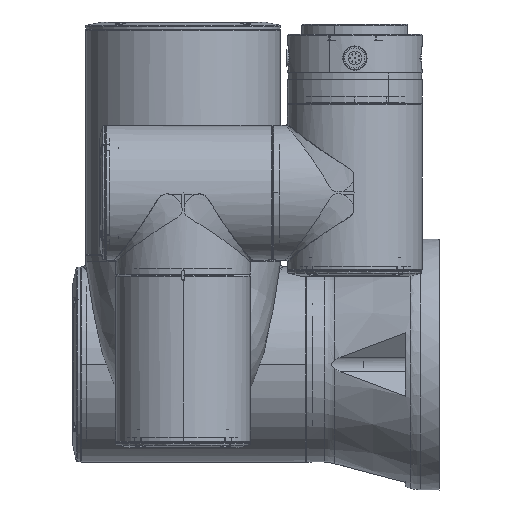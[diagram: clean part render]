
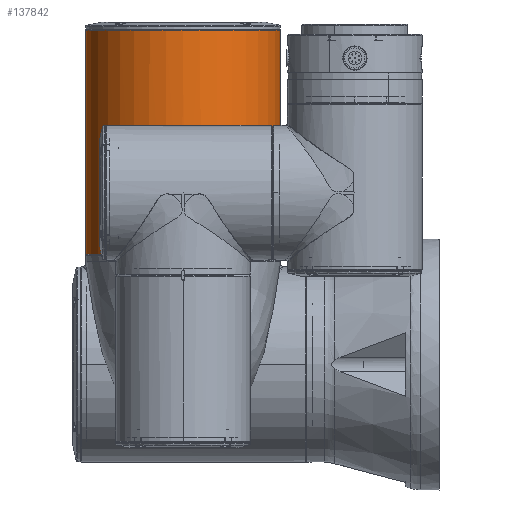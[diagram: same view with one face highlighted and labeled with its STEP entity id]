
A CAD part, left-side view. The second image highlights one B-rep face of the part: STEP entity #137842.
In plain terms, the highlighted cylindrical face has radius 58 mm (diameter 116 mm), a partial arc.
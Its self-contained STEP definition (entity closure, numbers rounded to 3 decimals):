
#1962 = CARTESIAN_POINT ( 'NONE',  ( -425., 210., 199. ) ) ;
#2050 = AXIS2_PLACEMENT_3D ( 'NONE', #81934, #139669, #106789 ) ;
#3278 = ORIENTED_EDGE ( 'NONE', *, *, #146009, .T. ) ;
#3905 = CARTESIAN_POINT ( 'NONE',  ( -482.998, 151.468, 67.935 ) ) ;
#4385 = CARTESIAN_POINT ( 'NONE',  ( -483., 151.983, 68.1 ) ) ;
#5058 = AXIS2_PLACEMENT_3D ( 'NONE', #78306, #33904, #90198 ) ;
#6766 = CARTESIAN_POINT ( 'NONE',  ( -425., 94., 138. ) ) ;
#7160 = VERTEX_POINT ( 'NONE', #67857 ) ;
#7842 = VERTEX_POINT ( 'NONE', #107302 ) ;
#8058 = ORIENTED_EDGE ( 'NONE', *, *, #28182, .T. ) ;
#8259 = DIRECTION ( 'NONE',  ( 0., 0., 1. ) ) ;
#8545 = CARTESIAN_POINT ( 'NONE',  ( -482.993, 151.125, 66.68 ) ) ;
#8759 = DIRECTION ( 'NONE',  ( 0., 1., 0. ) ) ;
#9538 = CARTESIAN_POINT ( 'NONE',  ( -482.993, 151.105, 65.503 ) ) ;
#10727 = CARTESIAN_POINT ( 'NONE',  ( -483., 152.017, 68.1 ) ) ;
#12428 = CIRCLE ( 'NONE', #5058, 58. ) ;
#14012 = CIRCLE ( 'NONE', #2050, 58. ) ;
#14785 = VECTOR ( 'NONE', #119468, 1000. ) ;
#14851 = CARTESIAN_POINT ( 'NONE',  ( -482.994, 152.864, 67.269 ) ) ;
#15349 = CARTESIAN_POINT ( 'NONE',  ( -482.995, 151.248, 67.689 ) ) ;
#16347 = CARTESIAN_POINT ( 'NONE',  ( -482.994, 151.136, 67.269 ) ) ;
#17936 = B_SPLINE_CURVE_WITH_KNOTS ( 'NONE', 3,
 ( #4385, #129576, #107138, #26367, #3905, #38326, #15349, #38840, #118602, #16347 ),
 .UNSPECIFIED., .F., .F.,
 ( 4, 2, 2, 2, 4 ),
 ( 0., 0.25, 0.5, 0.75, 1. ),
 .UNSPECIFIED. ) ;
#18292 = CARTESIAN_POINT ( 'NONE',  ( -425., 94., 65.503 ) ) ;
#19576 = CYLINDRICAL_SURFACE ( 'NONE', #59991, 58. ) ;
#20550 = VERTEX_POINT ( 'NONE', #111816 ) ;
#20922 = EDGE_CURVE ( 'NONE', #46455, #116734, #144203, .T. ) ;
#21716 = CIRCLE ( 'NONE', #65499, 58. ) ;
#22052 = VERTEX_POINT ( 'NONE', #46827 ) ;
#23743 = EDGE_CURVE ( 'NONE', #7842, #35925, #80325, .T. ) ;
#24691 = DIRECTION ( 'NONE',  ( 0., 1., 0. ) ) ;
#26101 = DIRECTION ( 'NONE',  ( 0., 0., -1. ) ) ;
#26173 = CARTESIAN_POINT ( 'NONE',  ( -425., 152., 199. ) ) ;
#26367 = CARTESIAN_POINT ( 'NONE',  ( -482.998, 151.558, 67.994 ) ) ;
#28182 = EDGE_CURVE ( 'NONE', #58007, #22052, #60481, .T. ) ;
#28269 = AXIS2_PLACEMENT_3D ( 'NONE', #30089, #121316, #109869 ) ;
#29310 = CARTESIAN_POINT ( 'NONE',  ( -482.995, 152.75, 67.691 ) ) ;
#30089 = CARTESIAN_POINT ( 'NONE',  ( -425., 152., 68.1 ) ) ;
#30316 = EDGE_CURVE ( 'NONE', #132335, #80510, #53024, .T. ) ;
#32301 = DIRECTION ( 'NONE',  ( 0., 0., -1. ) ) ;
#33904 = DIRECTION ( 'NONE',  ( 0., 0., 1. ) ) ;
#35716 = DIRECTION ( 'NONE',  ( 0., 0., -1. ) ) ;
#35925 = VERTEX_POINT ( 'NONE', #75854 ) ;
#36491 = EDGE_CURVE ( 'NONE', #7160, #58007, #145693, .T. ) ;
#36874 = CARTESIAN_POINT ( 'NONE',  ( -425., 210., 199. ) ) ;
#38326 = CARTESIAN_POINT ( 'NONE',  ( -482.996, 151.31, 67.78 ) ) ;
#38840 = CARTESIAN_POINT ( 'NONE',  ( -482.994, 151.161, 67.487 ) ) ;
#39338 = CARTESIAN_POINT ( 'NONE',  ( -482.996, 152.69, 67.78 ) ) ;
#41309 = EDGE_CURVE ( 'NONE', #116734, #122679, #101560, .T. ) ;
#42298 = VECTOR ( 'NONE', #26101, 1000. ) ;
#42347 = VECTOR ( 'NONE', #32301, 1000. ) ;
#42855 = FACE_OUTER_BOUND ( 'NONE', #116930, .T. ) ;
#44815 = EDGE_CURVE ( 'NONE', #22052, #46455, #12428, .T. ) ;
#46455 = VERTEX_POINT ( 'NONE', #63404 ) ;
#46827 = CARTESIAN_POINT ( 'NONE',  ( -425., 210., 65.503 ) ) ;
#50718 = ORIENTED_EDGE ( 'NONE', *, *, #44815, .T. ) ;
#50834 = CARTESIAN_POINT ( 'NONE',  ( -482.994, 152.862, 67.38 ) ) ;
#51691 = CARTESIAN_POINT ( 'NONE',  ( -425., 94., 199. ) ) ;
#53024 = LINE ( 'NONE', #60558, #42298 ) ;
#54174 = ORIENTED_EDGE ( 'NONE', *, *, #79098, .T. ) ;
#58007 = VERTEX_POINT ( 'NONE', #91783 ) ;
#58409 = CARTESIAN_POINT ( 'NONE',  ( -482.994, 152.864, 67.269 ) ) ;
#58915 = CARTESIAN_POINT ( 'NONE',  ( -482.993, 152.885, 66.092 ) ) ;
#59991 = AXIS2_PLACEMENT_3D ( 'NONE', #26173, #35716, #24691 ) ;
#60481 = LINE ( 'NONE', #1962, #140654 ) ;
#60558 = CARTESIAN_POINT ( 'NONE',  ( -425., 94., 199. ) ) ;
#61805 = CARTESIAN_POINT ( 'NONE',  ( -482.994, 152.839, 67.486 ) ) ;
#63404 = CARTESIAN_POINT ( 'NONE',  ( -482.993, 152.895, 65.503 ) ) ;
#64081 = ORIENTED_EDGE ( 'NONE', *, *, #144971, .T. ) ;
#65499 = AXIS2_PLACEMENT_3D ( 'NONE', #144878, #8259, #8759 ) ;
#67857 = CARTESIAN_POINT ( 'NONE',  ( -425., 210., 198.497 ) ) ;
#69558 = ORIENTED_EDGE ( 'NONE', *, *, #30316, .F. ) ;
#73679 = LINE ( 'NONE', #51691, #14785 ) ;
#75754 = EDGE_CURVE ( 'NONE', #20550, #132335, #73679, .T. ) ;
#75854 = CARTESIAN_POINT ( 'NONE',  ( -482.993, 151.105, 65.503 ) ) ;
#76141 = VERTEX_POINT ( 'NONE', #98472 ) ;
#78306 = CARTESIAN_POINT ( 'NONE',  ( -425., 152., 65.503 ) ) ;
#79098 = EDGE_CURVE ( 'NONE', #122679, #76141, #139436, .T. ) ;
#79333 = ORIENTED_EDGE ( 'NONE', *, *, #75754, .F. ) ;
#80325 =( BOUNDED_CURVE ( )  B_SPLINE_CURVE ( 3, ( #122283, #8545, #100824, #9538 ),
 .UNSPECIFIED., .F., .F. ) 
 B_SPLINE_CURVE_WITH_KNOTS ( ( 4, 4 ),
 ( 4.727, 4.728 ),
 .UNSPECIFIED. ) 
 CURVE ( )  GEOMETRIC_REPRESENTATION_ITEM ( )  RATIONAL_B_SPLINE_CURVE ( ( 1., 1., 1., 1. ) ) 
 REPRESENTATION_ITEM ( '' )  );
#80510 = VERTEX_POINT ( 'NONE', #18292 ) ;
#81934 = CARTESIAN_POINT ( 'NONE',  ( -425., 152., 198.497 ) ) ;
#87236 = ORIENTED_EDGE ( 'NONE', *, *, #36491, .T. ) ;
#90198 = DIRECTION ( 'NONE',  ( 0., 1., 0. ) ) ;
#91783 = CARTESIAN_POINT ( 'NONE',  ( -425., 210., 138. ) ) ;
#92541 = ORIENTED_EDGE ( 'NONE', *, *, #20922, .T. ) ;
#98472 = CARTESIAN_POINT ( 'NONE',  ( -483., 151.983, 68.1 ) ) ;
#100824 = CARTESIAN_POINT ( 'NONE',  ( -482.993, 151.115, 66.092 ) ) ;
#101560 = B_SPLINE_CURVE_WITH_KNOTS ( 'NONE', 3,
 ( #143431, #50834, #61805, #29310, #39338, #130549, #107625, #120565 ),
 .UNSPECIFIED., .F., .F.,
 ( 4, 2, 2, 4 ),
 ( 0., 0.25, 0.5, 1. ),
 .UNSPECIFIED. ) ;
#104684 = DIRECTION ( 'NONE',  ( 0., 0., -1. ) ) ;
#105463 = EDGE_CURVE ( 'NONE', #35925, #80510, #21716, .T. ) ;
#106789 = DIRECTION ( 'NONE',  ( 0., 1., 0. ) ) ;
#107138 = CARTESIAN_POINT ( 'NONE',  ( -483., 151.765, 68.078 ) ) ;
#107302 = CARTESIAN_POINT ( 'NONE',  ( -482.994, 151.136, 67.269 ) ) ;
#107625 = CARTESIAN_POINT ( 'NONE',  ( -483., 152.239, 68.1 ) ) ;
#109027 = ORIENTED_EDGE ( 'NONE', *, *, #41309, .T. ) ;
#109869 = DIRECTION ( 'NONE',  ( 0., -1., 0. ) ) ;
#111816 = CARTESIAN_POINT ( 'NONE',  ( -425., 94., 198.497 ) ) ;
#116734 = VERTEX_POINT ( 'NONE', #14851 ) ;
#116930 = EDGE_LOOP ( 'NONE', ( #79333, #64081, #87236, #8058, #50718, #92541, #109027, #54174, #3278, #137913, #120089, #69558 ) ) ;
#118602 = CARTESIAN_POINT ( 'NONE',  ( -482.994, 151.138, 67.381 ) ) ;
#119468 = DIRECTION ( 'NONE',  ( 0., 0., -1. ) ) ;
#120089 = ORIENTED_EDGE ( 'NONE', *, *, #105463, .T. ) ;
#120565 = CARTESIAN_POINT ( 'NONE',  ( -483., 152.017, 68.1 ) ) ;
#121316 = DIRECTION ( 'NONE',  ( 0., 0., 1. ) ) ;
#122283 = CARTESIAN_POINT ( 'NONE',  ( -482.994, 151.136, 67.269 ) ) ;
#122679 = VERTEX_POINT ( 'NONE', #10727 ) ;
#127678 = CARTESIAN_POINT ( 'NONE',  ( -482.993, 152.895, 65.503 ) ) ;
#129576 = CARTESIAN_POINT ( 'NONE',  ( -483., 151.873, 68.1 ) ) ;
#130549 = CARTESIAN_POINT ( 'NONE',  ( -482.998, 152.452, 68.013 ) ) ;
#132335 = VERTEX_POINT ( 'NONE', #6766 ) ;
#137842 = ADVANCED_FACE ( 'NONE', ( #42855 ), #19576, .T. ) ;
#137913 = ORIENTED_EDGE ( 'NONE', *, *, #23743, .T. ) ;
#139436 = CIRCLE ( 'NONE', #28269, 58. ) ;
#139586 = CARTESIAN_POINT ( 'NONE',  ( -482.993, 152.875, 66.68 ) ) ;
#139669 = DIRECTION ( 'NONE',  ( 0., 0., -1. ) ) ;
#140654 = VECTOR ( 'NONE', #104684, 1000. ) ;
#143431 = CARTESIAN_POINT ( 'NONE',  ( -482.994, 152.864, 67.269 ) ) ;
#144203 =( BOUNDED_CURVE ( )  B_SPLINE_CURVE ( 3, ( #127678, #58915, #139586, #58409 ),
 .UNSPECIFIED., .F., .F. ) 
 B_SPLINE_CURVE_WITH_KNOTS ( ( 4, 4 ),
 ( 1.555, 1.556 ),
 .UNSPECIFIED. ) 
 CURVE ( )  GEOMETRIC_REPRESENTATION_ITEM ( )  RATIONAL_B_SPLINE_CURVE ( ( 1., 1., 1., 1. ) ) 
 REPRESENTATION_ITEM ( '' )  );
#144878 = CARTESIAN_POINT ( 'NONE',  ( -425., 152., 65.503 ) ) ;
#144971 = EDGE_CURVE ( 'NONE', #20550, #7160, #14012, .T. ) ;
#145693 = LINE ( 'NONE', #36874, #42347 ) ;
#146009 = EDGE_CURVE ( 'NONE', #76141, #7842, #17936, .T. ) ;
